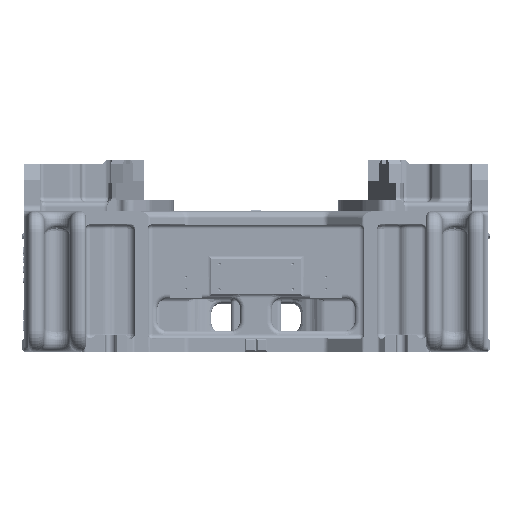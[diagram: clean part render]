
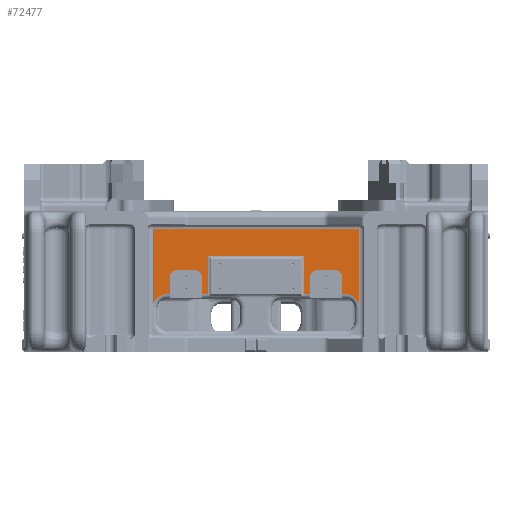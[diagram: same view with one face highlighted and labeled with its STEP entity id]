
A CAD part, front view. The second image highlights one B-rep face of the part: STEP entity #72477.
In plain terms, the highlighted planar face has unit normal (0, -1, 0).
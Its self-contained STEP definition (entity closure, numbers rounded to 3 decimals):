
#72477=ADVANCED_FACE('',(#82330),#79956,.F.);
#79956=PLANE('',#280597);
#82330=FACE_OUTER_BOUND('',#89315,.T.);
#89315=EDGE_LOOP('',(#100036,#100037,#100038,#100039,#100040,#100041,#100042,
#100043,#100044,#100045,#100046,#100047,#100048,#100049,#100050,#100051,
#100052,#100053,#100054,#100055,#100056,#100057));
#100036=ORIENTED_EDGE('',*,*,#172938,.T.);
#100037=ORIENTED_EDGE('',*,*,#172939,.T.);
#100038=ORIENTED_EDGE('',*,*,#172940,.T.);
#100039=ORIENTED_EDGE('',*,*,#172941,.T.);
#100040=ORIENTED_EDGE('',*,*,#172942,.T.);
#100041=ORIENTED_EDGE('',*,*,#172943,.T.);
#100042=ORIENTED_EDGE('',*,*,#172944,.T.);
#100043=ORIENTED_EDGE('',*,*,#172945,.T.);
#100044=ORIENTED_EDGE('',*,*,#172946,.T.);
#100045=ORIENTED_EDGE('',*,*,#172947,.T.);
#100046=ORIENTED_EDGE('',*,*,#172948,.T.);
#100047=ORIENTED_EDGE('',*,*,#172949,.T.);
#100048=ORIENTED_EDGE('',*,*,#172950,.T.);
#100049=ORIENTED_EDGE('',*,*,#172951,.T.);
#100050=ORIENTED_EDGE('',*,*,#172952,.T.);
#100051=ORIENTED_EDGE('',*,*,#172953,.T.);
#100052=ORIENTED_EDGE('',*,*,#172954,.T.);
#100053=ORIENTED_EDGE('',*,*,#172955,.T.);
#100054=ORIENTED_EDGE('',*,*,#172956,.T.);
#100055=ORIENTED_EDGE('',*,*,#172957,.T.);
#100056=ORIENTED_EDGE('',*,*,#172958,.T.);
#100057=ORIENTED_EDGE('',*,*,#172959,.T.);
#136404=VERTEX_POINT('',#368368);
#136405=VERTEX_POINT('',#368369);
#136406=VERTEX_POINT('',#368371);
#136407=VERTEX_POINT('',#368373);
#136408=VERTEX_POINT('',#368375);
#136409=VERTEX_POINT('',#368377);
#136410=VERTEX_POINT('',#368379);
#136411=VERTEX_POINT('',#368381);
#136412=VERTEX_POINT('',#368383);
#136413=VERTEX_POINT('',#368385);
#136414=VERTEX_POINT('',#368387);
#136415=VERTEX_POINT('',#368389);
#136416=VERTEX_POINT('',#368391);
#136417=VERTEX_POINT('',#368393);
#136418=VERTEX_POINT('',#368395);
#136419=VERTEX_POINT('',#368397);
#136420=VERTEX_POINT('',#368399);
#136421=VERTEX_POINT('',#368401);
#136422=VERTEX_POINT('',#368403);
#136423=VERTEX_POINT('',#368405);
#136424=VERTEX_POINT('',#368407);
#136425=VERTEX_POINT('',#368409);
#172938=EDGE_CURVE('',#136404,#136405,#248865,.T.);
#172939=EDGE_CURVE('',#136405,#136406,#248866,.T.);
#172940=EDGE_CURVE('',#136406,#136407,#248867,.T.);
#172941=EDGE_CURVE('',#136407,#136408,#248868,.T.);
#172942=EDGE_CURVE('',#136408,#136409,#248869,.T.);
#172943=EDGE_CURVE('',#136409,#136410,#248870,.T.);
#172944=EDGE_CURVE('',#136410,#136411,#214494,.T.);
#172945=EDGE_CURVE('',#136411,#136412,#248871,.T.);
#172946=EDGE_CURVE('',#136412,#136413,#214495,.T.);
#172947=EDGE_CURVE('',#136413,#136414,#248872,.T.);
#172948=EDGE_CURVE('',#136414,#136415,#248873,.T.);
#172949=EDGE_CURVE('',#136415,#136416,#214496,.T.);
#172950=EDGE_CURVE('',#136416,#136417,#248874,.T.);
#172951=EDGE_CURVE('',#136417,#136418,#248875,.T.);
#172952=EDGE_CURVE('',#136418,#136419,#248876,.T.);
#172953=EDGE_CURVE('',#136419,#136420,#214497,.T.);
#172954=EDGE_CURVE('',#136420,#136421,#248877,.T.);
#172955=EDGE_CURVE('',#136421,#136422,#248878,.T.);
#172956=EDGE_CURVE('',#136422,#136423,#214498,.T.);
#172957=EDGE_CURVE('',#136423,#136424,#248879,.T.);
#172958=EDGE_CURVE('',#136424,#136425,#214499,.T.);
#172959=EDGE_CURVE('',#136425,#136404,#248880,.T.);
#214494=CIRCLE('',#280591,20.);
#214495=CIRCLE('',#280592,20.);
#214496=CIRCLE('',#280593,45.);
#214497=CIRCLE('',#280594,45.);
#214498=CIRCLE('',#280595,20.);
#214499=CIRCLE('',#280596,20.);
#248865=LINE('',#368367,#264813);
#248866=LINE('',#368370,#264814);
#248867=LINE('',#368372,#264815);
#248868=LINE('',#368374,#264816);
#248869=LINE('',#368376,#264817);
#248870=LINE('',#368378,#264818);
#248871=LINE('',#368382,#264819);
#248872=LINE('',#368386,#264820);
#248873=LINE('',#368388,#264821);
#248874=LINE('',#368392,#264822);
#248875=LINE('',#368394,#264823);
#248876=LINE('',#368396,#264824);
#248877=LINE('',#368400,#264825);
#248878=LINE('',#368402,#264826);
#248879=LINE('',#368406,#264827);
#248880=LINE('',#368410,#264828);
#264813=VECTOR('',#305039,1.);
#264814=VECTOR('',#305040,1.);
#264815=VECTOR('',#305041,1.);
#264816=VECTOR('',#305042,1.);
#264817=VECTOR('',#305043,1.);
#264818=VECTOR('',#305044,1.);
#264819=VECTOR('',#305047,1.);
#264820=VECTOR('',#305050,1.);
#264821=VECTOR('',#305051,1.);
#264822=VECTOR('',#305054,1.);
#264823=VECTOR('',#305055,1.);
#264824=VECTOR('',#305056,1.);
#264825=VECTOR('',#305059,1.);
#264826=VECTOR('',#305060,1.);
#264827=VECTOR('',#305063,1.);
#264828=VECTOR('',#305066,1.);
#280591=AXIS2_PLACEMENT_3D('',#368380,#305045,#305046);
#280592=AXIS2_PLACEMENT_3D('',#368384,#305048,#305049);
#280593=AXIS2_PLACEMENT_3D('',#368390,#305052,#305053);
#280594=AXIS2_PLACEMENT_3D('',#368398,#305057,#305058);
#280595=AXIS2_PLACEMENT_3D('',#368404,#305061,#305062);
#280596=AXIS2_PLACEMENT_3D('',#368408,#305064,#305065);
#280597=AXIS2_PLACEMENT_3D('',#368411,#305067,#305068);
#305039=DIRECTION('',(1.,0.,0.));
#305040=DIRECTION('',(0.,0.,1.));
#305041=DIRECTION('',(1.,0.,0.));
#305042=DIRECTION('',(0.,0.,-1.));
#305043=DIRECTION('',(1.,0.,0.));
#305044=DIRECTION('',(0.,0.,1.));
#305045=DIRECTION('',(0.,1.,0.));
#305046=DIRECTION('',(0.,0.,1.));
#305047=DIRECTION('',(1.,0.,0.));
#305048=DIRECTION('',(0.,1.,0.));
#305049=DIRECTION('',(0.,0.,1.));
#305050=DIRECTION('',(0.,0.,-1.));
#305051=DIRECTION('',(1.,0.,0.));
#305052=DIRECTION('',(0.,1.,0.));
#305053=DIRECTION('',(0.,0.,-1.));
#305054=DIRECTION('',(0.,0.,1.));
#305055=DIRECTION('',(-1.,0.,0.));
#305056=DIRECTION('',(0.,0.,-1.));
#305057=DIRECTION('',(0.,1.,0.));
#305058=DIRECTION('',(0.,0.,-1.));
#305059=DIRECTION('',(1.,0.,0.));
#305060=DIRECTION('',(0.,0.,1.));
#305061=DIRECTION('',(0.,1.,0.));
#305062=DIRECTION('',(0.,0.,1.));
#305063=DIRECTION('',(1.,0.,0.));
#305064=DIRECTION('',(0.,1.,0.));
#305065=DIRECTION('',(0.,0.,1.));
#305066=DIRECTION('',(0.,0.,-1.));
#305067=DIRECTION('',(0.,1.,0.));
#305068=DIRECTION('',(0.,0.,-1.));
#368367=CARTESIAN_POINT('',(-80.,-930.,-345.));
#368368=CARTESIAN_POINT('',(-170.,-930.,-345.));
#368369=CARTESIAN_POINT('',(-151.213,-930.,-345.));
#368370=CARTESIAN_POINT('',(-151.213,-930.,-230.));
#368371=CARTESIAN_POINT('',(-151.213,-930.,-223.787));
#368372=CARTESIAN_POINT('',(145.,-930.,-223.787));
#368373=CARTESIAN_POINT('',(151.213,-930.,-223.787));
#368374=CARTESIAN_POINT('',(151.213,-930.,-345.));
#368375=CARTESIAN_POINT('',(151.213,-930.,-345.));
#368376=CARTESIAN_POINT('',(80.,-930.,-345.));
#368377=CARTESIAN_POINT('',(170.,-930.,-345.));
#368378=CARTESIAN_POINT('',(170.,-930.,-85.));
#368379=CARTESIAN_POINT('',(170.,-930.,-290.));
#368380=CARTESIAN_POINT('',(190.,-930.,-290.));
#368381=CARTESIAN_POINT('',(190.,-930.,-270.));
#368382=CARTESIAN_POINT('',(730.,-930.,-270.));
#368383=CARTESIAN_POINT('',(250.,-930.,-270.));
#368384=CARTESIAN_POINT('',(250.,-930.,-290.));
#368385=CARTESIAN_POINT('',(270.,-930.,-290.));
#368386=CARTESIAN_POINT('',(270.,-930.,-85.));
#368387=CARTESIAN_POINT('',(270.,-930.,-345.));
#368388=CARTESIAN_POINT('',(275.,-930.,-345.));
#368389=CARTESIAN_POINT('',(280.,-930.,-345.));
#368390=CARTESIAN_POINT('',(280.,-930.,-390.));
#368391=CARTESIAN_POINT('',(325.,-930.,-390.));
#368392=CARTESIAN_POINT('',(325.,-930.,-85.));
#368393=CARTESIAN_POINT('',(325.,-930.,-140.));
#368394=CARTESIAN_POINT('',(325.,-930.,-140.));
#368395=CARTESIAN_POINT('',(-325.,-930.,-140.));
#368396=CARTESIAN_POINT('',(-325.,-930.,-85.));
#368397=CARTESIAN_POINT('',(-325.,-930.,-390.));
#368398=CARTESIAN_POINT('',(-280.,-930.,-390.));
#368399=CARTESIAN_POINT('',(-280.,-930.,-345.));
#368400=CARTESIAN_POINT('',(-275.,-930.,-345.));
#368401=CARTESIAN_POINT('',(-270.,-930.,-345.));
#368402=CARTESIAN_POINT('',(-270.,-930.,-85.));
#368403=CARTESIAN_POINT('',(-270.,-930.,-290.));
#368404=CARTESIAN_POINT('',(-250.,-930.,-290.));
#368405=CARTESIAN_POINT('',(-250.,-930.,-270.));
#368406=CARTESIAN_POINT('',(730.,-930.,-270.));
#368407=CARTESIAN_POINT('',(-190.,-930.,-270.));
#368408=CARTESIAN_POINT('',(-190.,-930.,-290.));
#368409=CARTESIAN_POINT('',(-170.,-930.,-290.));
#368410=CARTESIAN_POINT('',(-170.,-930.,-85.));
#368411=CARTESIAN_POINT('',(730.,-930.,-85.));
